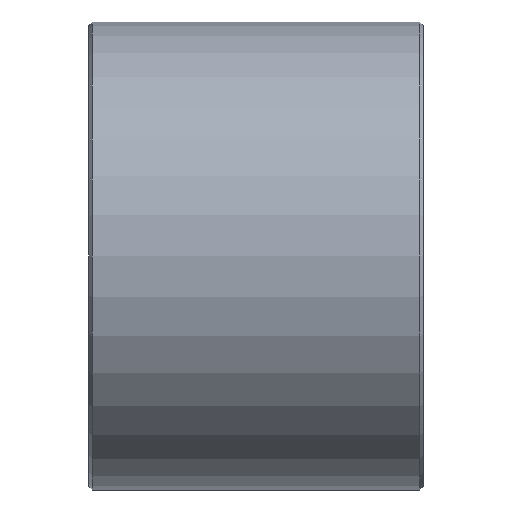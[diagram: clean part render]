
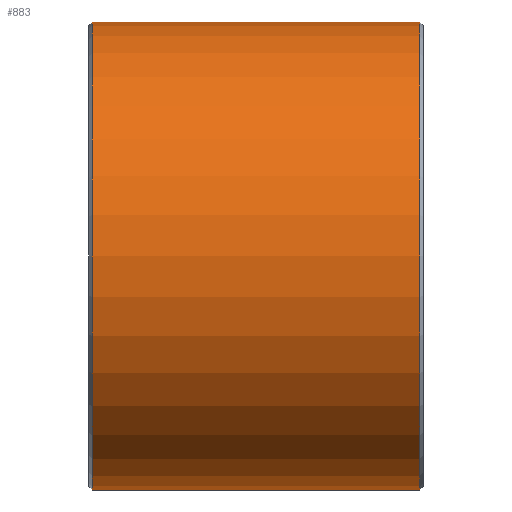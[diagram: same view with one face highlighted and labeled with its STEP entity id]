
A CAD part, left-side view. The second image highlights one B-rep face of the part: STEP entity #883.
In plain terms, the highlighted cylindrical face has radius 35 mm (diameter 70 mm), a partial arc.
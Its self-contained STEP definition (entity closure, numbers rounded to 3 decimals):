
#34 = CARTESIAN_POINT ( 'NONE',  ( 0., 1., 0. ) ) ;
#44 = DIRECTION ( 'NONE',  ( 0., 1., 0. ) ) ;
#142 = EDGE_LOOP ( 'NONE', ( #391, #1127, #1183, #646 ) ) ;
#146 = CARTESIAN_POINT ( 'NONE',  ( 0., 65.513, 0. ) ) ;
#164 = LINE ( 'NONE', #775, #1214 ) ;
#187 = CARTESIAN_POINT ( 'NONE',  ( 0., 65.513, -35. ) ) ;
#196 = VERTEX_POINT ( 'NONE', #472 ) ;
#299 = DIRECTION ( 'NONE',  ( 0., 1., 0. ) ) ;
#346 = DIRECTION ( 'NONE',  ( 0., 0., 1. ) ) ;
#367 = DIRECTION ( 'NONE',  ( 0., 0., -1. ) ) ;
#370 = EDGE_CURVE ( 'NONE', #469, #613, #950, .T. ) ;
#391 = ORIENTED_EDGE ( 'NONE', *, *, #370, .F. ) ;
#418 = CARTESIAN_POINT ( 'NONE',  ( 0., -48., -35. ) ) ;
#433 = CARTESIAN_POINT ( 'NONE',  ( 0., 1., -35. ) ) ;
#434 = AXIS2_PLACEMENT_3D ( 'NONE', #835, #955, #367 ) ;
#457 = EDGE_CURVE ( 'NONE', #1255, #196, #164, .T. ) ;
#469 = VERTEX_POINT ( 'NONE', #418 ) ;
#472 = CARTESIAN_POINT ( 'NONE',  ( 0., 1., 35. ) ) ;
#548 = AXIS2_PLACEMENT_3D ( 'NONE', #34, #721, #833 ) ;
#613 = VERTEX_POINT ( 'NONE', #433 ) ;
#646 = ORIENTED_EDGE ( 'NONE', *, *, #821, .T. ) ;
#661 = CARTESIAN_POINT ( 'NONE',  ( 0., -48., 35. ) ) ;
#679 = AXIS2_PLACEMENT_3D ( 'NONE', #146, #44, #346 ) ;
#694 = DIRECTION ( 'NONE',  ( 0., 1., 0. ) ) ;
#721 = DIRECTION ( 'NONE',  ( 0., -1., 0. ) ) ;
#732 = CIRCLE ( 'NONE', #434, 35. ) ;
#775 = CARTESIAN_POINT ( 'NONE',  ( 0., 65.513, 35. ) ) ;
#821 = EDGE_CURVE ( 'NONE', #196, #613, #1229, .T. ) ;
#833 = DIRECTION ( 'NONE',  ( 0., 0., 1. ) ) ;
#835 = CARTESIAN_POINT ( 'NONE',  ( 0., -48., 0. ) ) ;
#863 = FACE_OUTER_BOUND ( 'NONE', #142, .T. ) ;
#883 = ADVANCED_FACE ( 'NONE', ( #863 ), #898, .T. ) ;
#898 = CYLINDRICAL_SURFACE ( 'NONE', #679, 35. ) ;
#943 = EDGE_CURVE ( 'NONE', #469, #1255, #732, .T. ) ;
#950 = LINE ( 'NONE', #187, #981 ) ;
#955 = DIRECTION ( 'NONE',  ( 0., 1., 0. ) ) ;
#981 = VECTOR ( 'NONE', #299, 1000. ) ;
#1127 = ORIENTED_EDGE ( 'NONE', *, *, #943, .T. ) ;
#1183 = ORIENTED_EDGE ( 'NONE', *, *, #457, .T. ) ;
#1214 = VECTOR ( 'NONE', #694, 1000. ) ;
#1229 = CIRCLE ( 'NONE', #548, 35. ) ;
#1255 = VERTEX_POINT ( 'NONE', #661 ) ;
